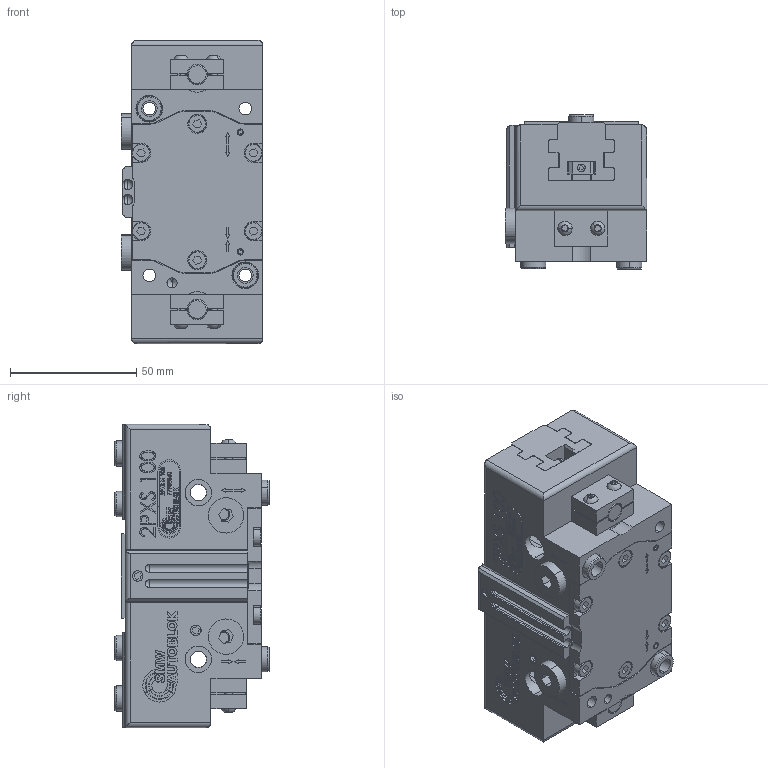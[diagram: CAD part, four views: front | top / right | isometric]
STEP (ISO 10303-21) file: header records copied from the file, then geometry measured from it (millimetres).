
FILE_DESCRIPTION (( 'STEP AP203' ), '1' );
FILE_NAME ('77901860_ FULL OPEN 2PXS-N 100.STEP', '2024-02-22T09:19:51', ( '' ), ( '' ), 'SwSTEP 2.0', 'SolidWorks 2023', '' );
FILE_SCHEMA (( 'CONFIG_CONTROL_DESIGN' ));
Length unit declared in the file: millimetre
Products named in the file (46): 71628602; 90496463; 71113707_Semplice; 71112110_semplice; 90166463; 71311225; 90016063; 71310216_PI; 92221263_a; 90306063; 71113719_Semplice; 90235863; 71310219_A; 90036060; 90096063; 71311338; 90215863; 71113301_Semplice; 71119628_semplice; 77901860_ FULL OPEN 2PXS-N 100; 90386063; 71200511; 90406063_90406060; 71113805; 71842008; 90026060; 90046063; 90285863
Assembly tree (53 placements, depth 2):
  71311225
  71310216_PI
  71113719_Semplice
  71311338
  77901860_ FULL OPEN 2PXS-N 100
    90016063
    90036060
    90096063
    90166463  x4
    90215863  x2
    90235863
    90285863  x4
    90386063
    90306063
    90406063_90406060
    90036060
    92221263_a  x4
    92221263_a
    90496463  x2
    71310219_A  x2
    71112110_semplice
    71119628_semplice  x2
    71113707_Semplice
    71113707_Semplice
    71113707_Semplice
    71113707_Semplice
    71113805  x4
    71112110_semplice
    71112110_semplice
    71113301_Semplice
    71113301_Semplice
    71113301_Semplice
    71113301_Semplice
    71628602
    71112110_semplice
    71112110_semplice
    71113707_Semplice
    71113707_Semplice
    71628602
    92221263_a
    71112110_semplice
    90235863
Bounding box: 56.2 x 61 x 120 mm (x, y, z)
Volume: 151486 mm3; surface area: 86079.1 mm2
Topology: 53 solids, 53 shells, 3059 faces, 8051 edges, 5300 vertices
Faces by surface type: plane 1495, cylinder 1009, bspline 387, cone 144, sphere 12, torus 12
Entity records: 118400 total; most frequent: CARTESIAN_POINT 42498, ORIENTED_EDGE 15222, DIRECTION 13890, EDGE_CURVE 7611, VERTEX_POINT 5032, VECTOR 4754, LINE 4754, AXIS2_PLACEMENT_3D 4568
